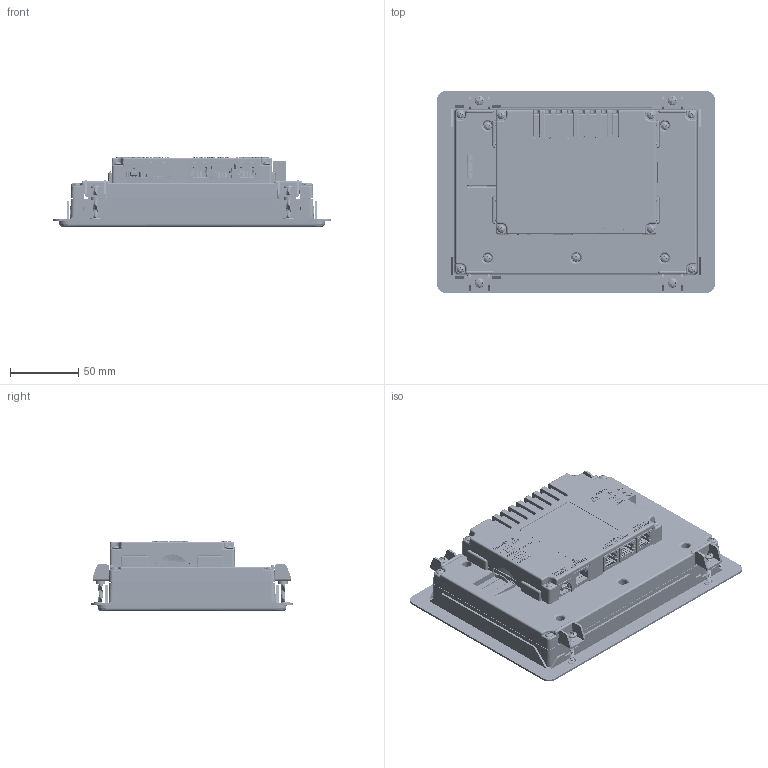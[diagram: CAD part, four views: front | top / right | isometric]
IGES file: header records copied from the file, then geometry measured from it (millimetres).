
Start section: C
Global section: file name: CR100007.igs; native system: By Siemens PLM Incorporated; preprocessor: XPlus GENERIC/IGES 20.0.26; author: Author; organization: Title; date: 20171221.063638; units: millimetre
Bounding box: 203.2 x 147.32 x 51.31 mm (x, y, z)
Surface area: 472696.7 mm2 (no closed solid volume)
Topology: 0 solids, 0 shells, 14843 faces, 95900 edges, 95835 vertices
Faces by surface type: bspline 14843
